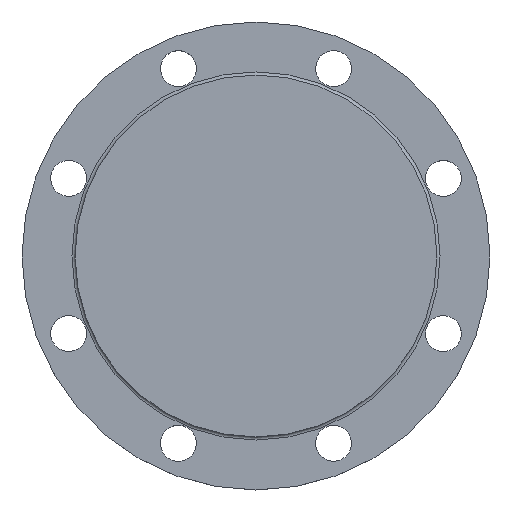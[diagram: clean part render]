
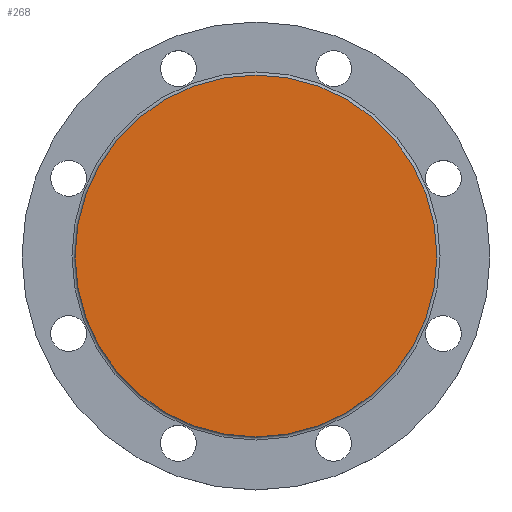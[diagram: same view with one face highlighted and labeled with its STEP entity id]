
A CAD part, top view. The second image highlights one B-rep face of the part: STEP entity #268.
In plain terms, the highlighted planar face has unit normal (0, 0, 1).
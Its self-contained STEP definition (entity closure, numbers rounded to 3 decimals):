
#60=PLANE('',#326);
#73=FACE_OUTER_BOUND('',#95,.T.);
#95=EDGE_LOOP('',(#244,#245));
#107=CIRCLE('',#293,116.);
#108=CIRCLE('',#294,116.);
#132=VERTEX_POINT('',#420);
#133=VERTEX_POINT('',#422);
#156=EDGE_CURVE('',#133,#132,#107,.T.);
#157=EDGE_CURVE('',#132,#133,#108,.T.);
#244=ORIENTED_EDGE('',*,*,#156,.T.);
#245=ORIENTED_EDGE('',*,*,#157,.T.);
#268=ADVANCED_FACE('',(#73),#60,.T.);
#293=AXIS2_PLACEMENT_3D('',#423,#336,#337);
#294=AXIS2_PLACEMENT_3D('',#424,#338,#339);
#326=AXIS2_PLACEMENT_3D('',#485,#411,#412);
#336=DIRECTION('center_axis',(0.,0.,1.));
#337=DIRECTION('ref_axis',(-1.,0.,0.));
#338=DIRECTION('center_axis',(0.,0.,1.));
#339=DIRECTION('ref_axis',(-1.,0.,0.));
#411=DIRECTION('center_axis',(0.,0.,1.));
#412=DIRECTION('ref_axis',(1.,0.,0.));
#420=CARTESIAN_POINT('',(-116.,0.,18.));
#422=CARTESIAN_POINT('',(116.,0.,18.));
#423=CARTESIAN_POINT('Origin',(0.,0.,18.));
#424=CARTESIAN_POINT('Origin',(0.,0.,18.));
#485=CARTESIAN_POINT('Origin',(0.,0.,18.));
